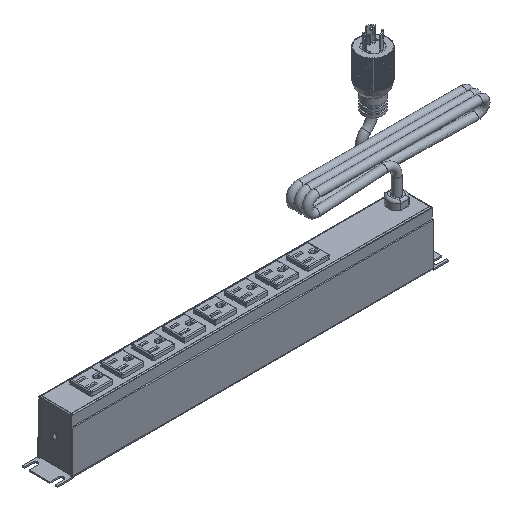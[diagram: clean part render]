
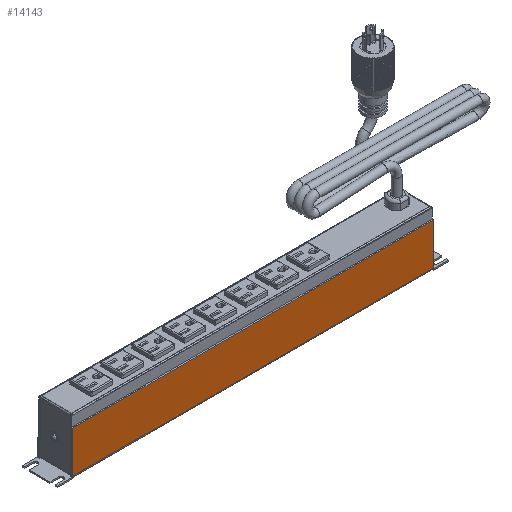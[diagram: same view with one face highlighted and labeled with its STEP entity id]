
A CAD part, isometric view. The second image highlights one B-rep face of the part: STEP entity #14143.
In plain terms, the highlighted planar face has unit normal (0, -1, 0).
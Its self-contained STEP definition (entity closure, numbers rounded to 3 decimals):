
#1405=FACE_OUTER_BOUND('',#2181,.T.);
#2181=EDGE_LOOP('',(#9529,#9530,#9531,#9532));
#3131=LINE('',#20337,#4510);
#3136=LINE('',#20350,#4515);
#3143=LINE('',#20366,#4522);
#3145=LINE('',#20369,#4524);
#4510=VECTOR('',#16482,10.);
#4515=VECTOR('',#16493,1.699);
#4522=VECTOR('',#16512,10.);
#4524=VECTOR('',#16516,10.);
#5883=VERTEX_POINT('',#20335);
#5884=VERTEX_POINT('',#20336);
#5889=VERTEX_POINT('',#20348);
#5892=VERTEX_POINT('',#20365);
#7341=EDGE_CURVE('',#5883,#5884,#3131,.T.);
#7348=EDGE_CURVE('',#5889,#5884,#3136,.T.);
#7357=EDGE_CURVE('',#5883,#5892,#3143,.T.);
#7359=EDGE_CURVE('',#5892,#5889,#3145,.T.);
#9529=ORIENTED_EDGE('',*,*,#7341,.T.);
#9530=ORIENTED_EDGE('',*,*,#7348,.F.);
#9531=ORIENTED_EDGE('',*,*,#7359,.F.);
#9532=ORIENTED_EDGE('',*,*,#7357,.F.);
#13580=PLANE('',#15128);
#14143=ADVANCED_FACE('',(#1405),#13580,.F.);
#15128=AXIS2_PLACEMENT_3D('',#20370,#16517,#16518);
#16482=DIRECTION('',(1.,0.,0.));
#16493=DIRECTION('',(0.,0.,-1.));
#16512=DIRECTION('',(0.,0.,1.));
#16516=DIRECTION('',(1.,0.,0.));
#16517=DIRECTION('center_axis',(0.,1.,0.));
#16518=DIRECTION('ref_axis',(1.,0.,0.));
#20335=CARTESIAN_POINT('',(-222.25,-21.819,2.588));
#20336=CARTESIAN_POINT('',(222.25,-21.819,2.588));
#20337=CARTESIAN_POINT('',(0.,-21.819,2.588));
#20348=CARTESIAN_POINT('',(222.25,-21.819,53.975));
#20350=CARTESIAN_POINT('',(222.25,-21.819,-2.748));
#20365=CARTESIAN_POINT('',(-222.25,-21.819,53.975));
#20366=CARTESIAN_POINT('',(-222.25,-21.819,2.588));
#20369=CARTESIAN_POINT('',(-222.25,-21.819,53.975));
#20370=CARTESIAN_POINT('Origin',(0.,-21.819,26.947));
